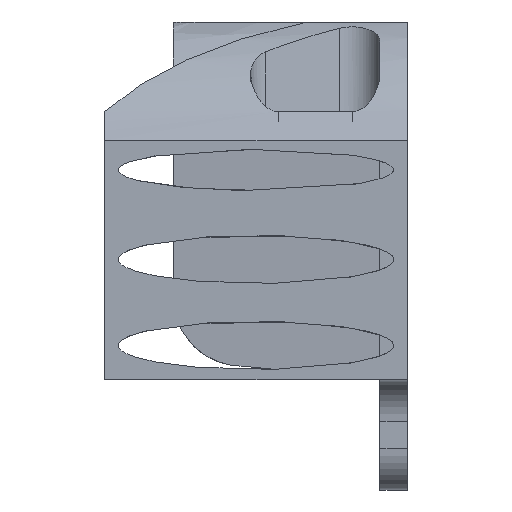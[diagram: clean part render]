
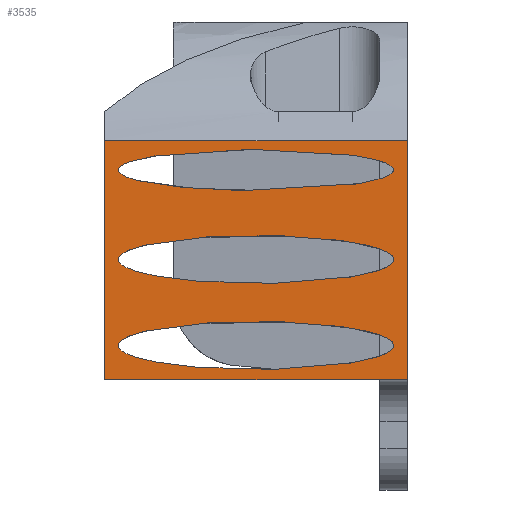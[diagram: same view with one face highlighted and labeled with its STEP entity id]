
A CAD part, left-side view. The second image highlights one B-rep face of the part: STEP entity #3535.
In plain terms, the highlighted planar face has unit normal (-1, 0, 0).
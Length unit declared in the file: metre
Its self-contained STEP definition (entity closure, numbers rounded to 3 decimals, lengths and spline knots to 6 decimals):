
#22=ELLIPSE('',#3635,0.01,0.0015);
#28=ELLIPSE('',#3757,0.01,0.00175);
#30=ELLIPSE('',#3760,0.01,0.00175);
#164=LINE('',#5027,#485);
#203=LINE('',#5227,#524);
#205=LINE('',#5232,#526);
#208=LINE('',#5237,#529);
#485=VECTOR('',#3980,1.);
#524=VECTOR('',#4117,1.);
#526=VECTOR('',#4121,1.);
#529=VECTOR('',#4126,1.);
#1802=ORIENTED_EDGE('',*,*,#1967,.F.);
#1803=ORIENTED_EDGE('',*,*,#1969,.F.);
#1804=ORIENTED_EDGE('',*,*,#1972,.F.);
#1805=ORIENTED_EDGE('',*,*,#1877,.F.);
#1806=ORIENTED_EDGE('',*,*,#2212,.F.);
#1807=ORIENTED_EDGE('',*,*,#2210,.F.);
#1808=ORIENTED_EDGE('',*,*,#1980,.T.);
#1877=EDGE_CURVE('',#2400,#2401,#164,.T.);
#1967=EDGE_CURVE('',#2489,#2400,#203,.T.);
#1969=EDGE_CURVE('',#2491,#2489,#205,.T.);
#1972=EDGE_CURVE('',#2401,#2491,#208,.T.);
#1980=EDGE_CURVE('',#2499,#2499,#22,.F.);
#2210=EDGE_CURVE('',#2680,#2680,#28,.T.);
#2212=EDGE_CURVE('',#2681,#2681,#30,.T.);
#2400=VERTEX_POINT('',#5026);
#2401=VERTEX_POINT('',#5028);
#2489=VERTEX_POINT('',#5226);
#2491=VERTEX_POINT('',#5231);
#2499=VERTEX_POINT('',#5286);
#2680=VERTEX_POINT('',#5779);
#2681=VERTEX_POINT('',#5813);
#3062=EDGE_LOOP('',(#1802,#1803,#1804,#1805));
#3063=EDGE_LOOP('',(#1806));
#3064=EDGE_LOOP('',(#1807));
#3065=EDGE_LOOP('',(#1808));
#3267=FACE_BOUND('',#3062,.T.);
#3268=FACE_BOUND('',#3063,.T.);
#3269=FACE_BOUND('',#3064,.T.);
#3270=FACE_BOUND('',#3065,.T.);
#3361=PLANE('',#3903);
#3535=ADVANCED_FACE('',(#3267,#3268,#3269,#3270),#3361,.T.);
#3635=AXIS2_PLACEMENT_3D('',#5285,#4135,#4136);
#3757=AXIS2_PLACEMENT_3D('',#5778,#4515,#4516);
#3760=AXIS2_PLACEMENT_3D('',#5812,#4521,#4522);
#3903=AXIS2_PLACEMENT_3D('',#6254,#4928,#4929);
#3980=DIRECTION('',(0.,0.,-1.));
#4117=DIRECTION('',(0.,-1.,0.));
#4121=DIRECTION('',(0.,0.,1.));
#4126=DIRECTION('',(0.,1.,0.));
#4135=DIRECTION('',(-1.,0.,0.));
#4136=DIRECTION('',(0.,1.,0.));
#4515=DIRECTION('',(-1.,0.,0.));
#4516=DIRECTION('',(0.,1.,0.));
#4521=DIRECTION('',(-1.,0.,0.));
#4522=DIRECTION('',(0.,1.,0.));
#4928=DIRECTION('',(-1.,0.,0.));
#4929=DIRECTION('',(0.,-1.,0.));
#5026=CARTESIAN_POINT('',(-0.099,0.,0.025385));
#5027=CARTESIAN_POINT('',(-0.099,0.,0.035));
#5028=CARTESIAN_POINT('',(-0.099,0.,0.008));
#5226=CARTESIAN_POINT('',(-0.099,0.022,0.025385));
#5227=CARTESIAN_POINT('',(-0.099,0.108218,0.025385));
#5231=CARTESIAN_POINT('',(-0.099,0.022,0.008));
#5232=CARTESIAN_POINT('',(-0.099,0.022,0.035));
#5237=CARTESIAN_POINT('',(-0.099,0.108218,0.008));
#5285=CARTESIAN_POINT('',(-0.099,0.011,0.02325));
#5286=CARTESIAN_POINT('',(-0.099,0.021,0.02325));
#5778=CARTESIAN_POINT('',(-0.099,0.011,0.01675));
#5779=CARTESIAN_POINT('',(-0.099,0.021,0.01675));
#5812=CARTESIAN_POINT('',(-0.099,0.011,0.0105));
#5813=CARTESIAN_POINT('',(-0.099,0.021,0.0105));
#6254=CARTESIAN_POINT('',(-0.099,0.010459,0.029222));
